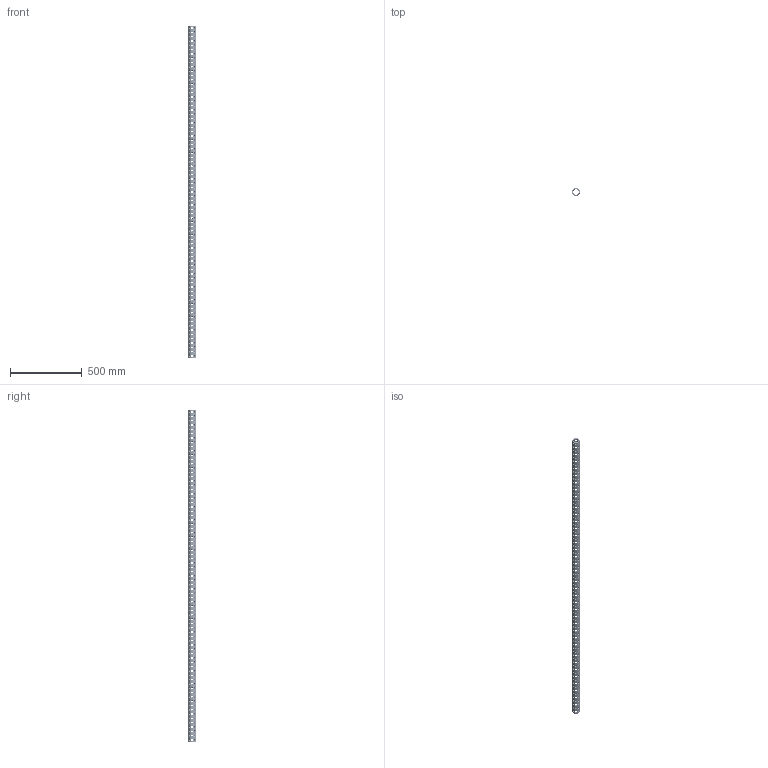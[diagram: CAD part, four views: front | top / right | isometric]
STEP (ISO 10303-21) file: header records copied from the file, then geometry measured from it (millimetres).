
FILE_DESCRIPTION(('CATIA V5 STEP Exchange'),'2;1');
FILE_NAME('U:\Room\唐宝山\EGT002\46-01-010306-01-EGT002-2308.stp','2021-08-24T02:01:22+00:00',('none'),('none'),'CATIA Version 5 Release 21 GA (IN-10)','CATIA V5 STEP AP203','none');
FILE_SCHEMA(('CONFIG_CONTROL_DESIGN'));
Products named in the file (1): 46-01-010306-01-EGT002-2308
Bounding box: 50 x 50 x 2308 mm (x, y, z)
Volume: 1644472.4 mm3; surface area: 792544.3 mm2
Topology: 1 solids, 1 shells, 3164 faces, 8716 edges, 5400 vertices
Faces by surface type: cone 1848, cylinder 1290, plane 26
Entity records: 135638 total; most frequent: CARTESIAN_POINT 59707, ORIENTED_EDGE 17432, DIRECTION 11983, EDGE_CURVE 8716, AXIS2_PLACEMENT_3D 5456, VERTEX_POINT 5400, EDGE_LOOP 4244, VECTOR 3364
